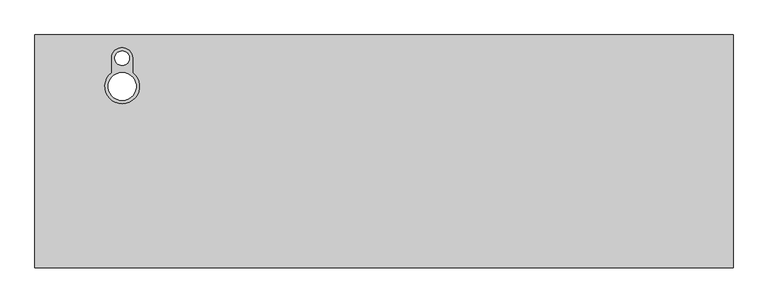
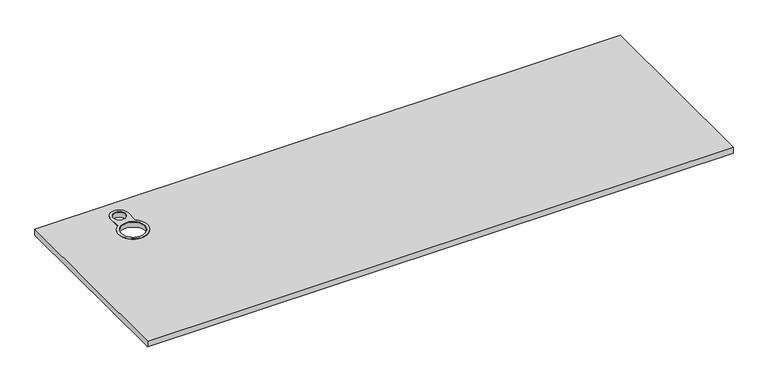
"""IFC4 building model written with IfcOpenShell, lengths in millimetres: furniture geometry, Geiger_GeigerOneCasegoods_CredenzaTopLowHeightWithLegGrommet : Veneer 72Wx 24Dx 0.75H."""

from ifc_helpers import new_model, si_unit, point, frame, frame_2d, origin, origin_with_axes, place, context, project, spatial, polyline, circle_curve, trimmed, segment, composite_curve, outline, extrude, source, transform, mapped, element, save


def furniture_9b6296b0(model_context):
    return source(origin(), model_context, "Body", "SweptSolid", [
        extrude(outline(polyline([(1828.8, 0.0), (1828.8, -609.6), (0.0, -609.6), (0.0, 0.0), (1828.8, 0.0)]), holes=[composite_curve([segment(trimmed(circle_curve(frame_2d((228.6, -61.000002)), 23.1477449), [point((205.4522551, -61.000002))], [point((251.7477449, -61.000002))], True, "CARTESIAN"), True, "CONTINUOUS"), segment(trimmed(circle_curve(frame_2d((228.6, -61.000002)), 23.1477449), [point((251.7477449, -61.000002))], [point((205.4522551, -61.000002))], True, "CARTESIAN"), True, "CONTINUOUS")], self_intersect=False), composite_curve([segment(trimmed(circle_curve(frame_2d((228.6, -135.0057226)), 40.382326), [point((188.217674, -135.0057226))], [point((268.982326, -135.0057226))], True, "CARTESIAN"), True, "CONTINUOUS"), segment(trimmed(circle_curve(frame_2d((228.6, -135.0057226)), 40.382326), [point((268.982326, -135.0057226))], [point((188.217674, -135.0057226))], True, "CARTESIAN"), True, "CONTINUOUS")], self_intersect=False)]), origin_with_axes(), (0.0, 0.0, 1.0), 19.05),
        extrude(outline(composite_curve([segment(trimmed(circle_curve(frame_2d((228.1337167, -60.9055219)), 27.5), [point((200.6337167, -60.9055219))], [point((255.6337167, -60.9055219))], False, "CARTESIAN"), True, "CONTINUOUS"), segment(polyline([(255.6337167, -60.9055219), (255.6337167, -98.6677415)]), True, "CONTINUOUS"), segment(trimmed(circle_curve(frame_2d((228.6, -135.0057226)), 45.2909561), [point((255.6337167, -98.6677415))], [point((200.6337167, -99.3804829))], False, "CARTESIAN"), True, "CONTINUOUS"), segment(polyline([(200.6337167, -99.3804829), (200.6337167, -60.9055219)]), True, "CONTINUOUS")], self_intersect=False), holes=[composite_curve([segment(trimmed(circle_curve(frame_2d((228.6, -61.000002)), 18.9999985), [point((228.6, -42.0000035))], [point((228.6, -80.0000005))], True, "CARTESIAN"), True, "CONTINUOUS"), segment(trimmed(circle_curve(frame_2d((228.6, -61.000002)), 18.9999985), [point((228.6, -80.0000005))], [point((228.6, -42.0000035))], True, "CARTESIAN"), True, "CONTINUOUS")], self_intersect=False), composite_curve([segment(trimmed(circle_curve(frame_2d((228.6, -135.0057226)), 36.4999999), [point((228.6, -98.5057227))], [point((228.6, -171.5057224))], True, "CARTESIAN"), True, "CONTINUOUS"), segment(trimmed(circle_curve(frame_2d((228.6, -135.0057226)), 36.4999999), [point((228.6, -171.5057224))], [point((228.6, -98.5057227))], True, "CARTESIAN"), True, "CONTINUOUS")], self_intersect=False)]), frame((0.0, 0.0, 19.05), z_axis=(0.0, 0.0, 1.0), x_axis=(1.0, 0.0, 0.0)), (0.0, 0.0, 1.0), 1.55),
    ])


if __name__ == "__main__":
    model = new_model("IFC4")
    model_context = context("Model", 3, world=origin())
    ifc_project = project(units=[si_unit("LENGTHUNIT", "METRE", prefix="MILLI")], contexts=[model_context])
    site = spatial("IfcSite", under=ifc_project)
    building = spatial("IfcBuilding", under=site)
    placement = place(None, origin())
    furniture_shape = furniture_9b6296b0(model_context)
    element("IfcFurniture", 1, ObjectType="Geiger_GeigerOneCasegoods_CredenzaTopLowHeightWithLegGrommet : Veneer 72Wx 24Dx 0.75H", at=placement, inside=building, context=model_context, shape_type="MappedRepresentation", body=[
        mapped(furniture_shape, transform((0.0, 0.0, 0.0), x_axis=(1.0, 0.0, 0.0), y_axis=(0.0, 1.0, 0.0), z_axis=(0.0, 0.0, 1.0))),
    ])
    save(model, "model.ifc")
